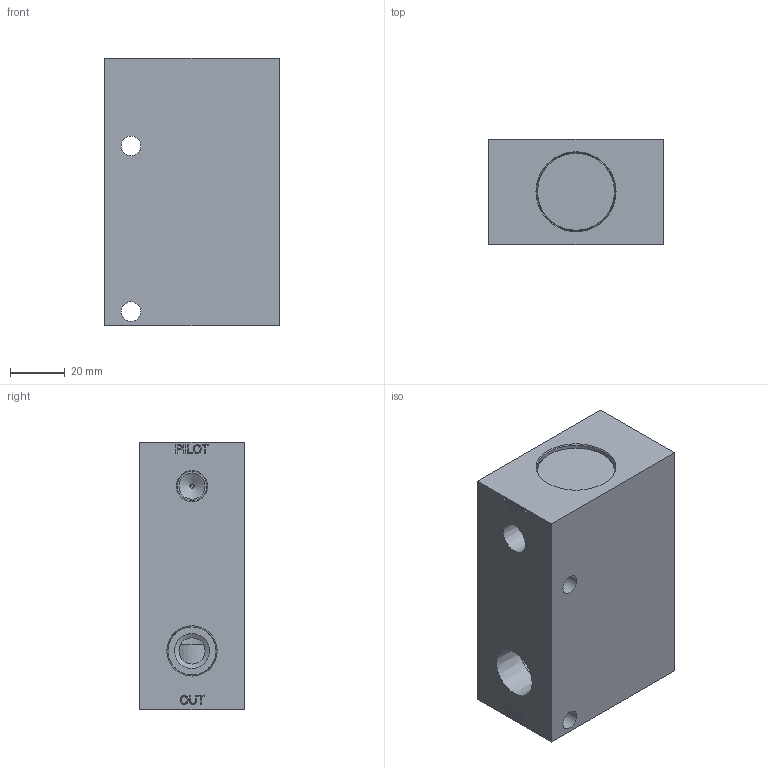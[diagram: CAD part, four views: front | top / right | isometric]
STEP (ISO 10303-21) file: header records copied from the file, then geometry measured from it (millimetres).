
FILE_DESCRIPTION(/* description */ (''),/* implementation_level */ '2;1');
FILE_NAME(/* name */ 'L:\ALADCO\Advertising\3D Content\Valves\Step Files - 2014-11-19 thru Present\32500X.stp',/* time_stamp */ '2014-11-19T14:22:57-06:00',/* author */ ('dmatz'),/* organization */ ('Aladdin Eng. & Manf. Inc.'),/* preprocessor_version */ 'ST-DEVELOPER v15.2',/* originating_system */ 'Autodesk Inventor 2014',/* authorisation */ '0 in^3');
FILE_SCHEMA (('AUTOMOTIVE_DESIGN { 1 0 10303 214 3 1 1 }'));
Length unit declared in the file: inch
Products named in the file (5): 311041; 301076; 321002; 301015; 325001
Bounding box: 63.5 x 38.1 x 97.23 mm (x, y, z)
Volume: 197042.6 mm3; surface area: 41784.2 mm2
Topology: 4 solids, 4 shells, 187 faces, 428 edges, 281 vertices
Faces by surface type: plane 100, cylinder 32, bspline 26, cone 21, torus 8
Full cylindrical faces by diameter (mm): 1.499 x1, 3.175 x1, 5.156 x1, 6.35 x2, 7.112 x2, 9.144 x1, 9.525 x3, 10.719 x1, 12.7 x3, 13.081 x1, 13.462 x1, 15.081 x1, 17.475 x2, 17.577 x1, 22.149 x1, 24.409 x1, 24.435 x1, 25.4 x2, 28.524 x4, 28.575 x2
Entity records: 5500 total; most frequent: CARTESIAN_POINT 1448, DIRECTION 716, ORIENTED_EDGE 694, EDGE_CURVE 347, EDGE_LOOP 294, VERTEX_POINT 261, AXIS2_PLACEMENT_3D 258, LINE 200
